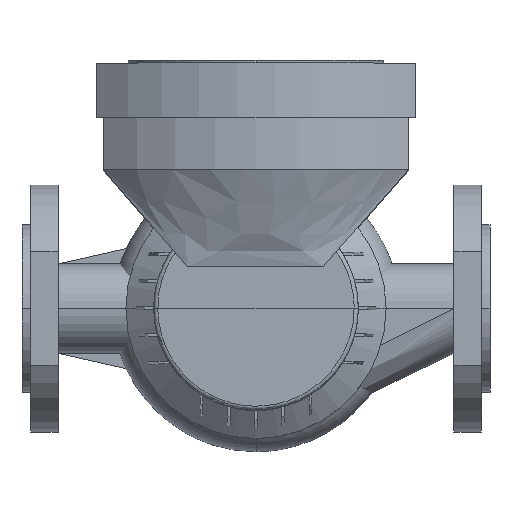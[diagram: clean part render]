
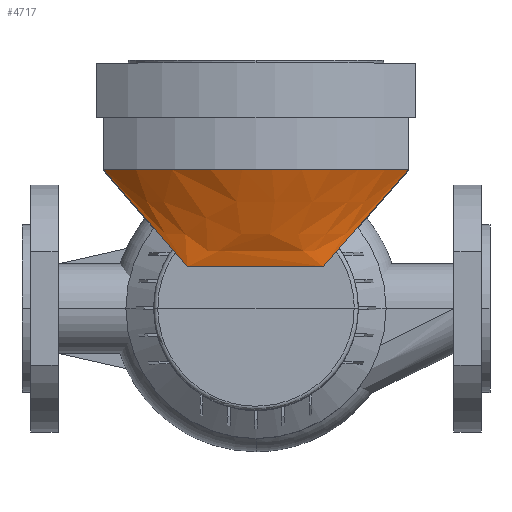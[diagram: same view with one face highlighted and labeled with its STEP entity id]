
A CAD part, top view. The second image highlights one B-rep face of the part: STEP entity #4717.
In plain terms, the highlighted free-form (B-spline) face has degree [3, 3] with [9, 4] control points.
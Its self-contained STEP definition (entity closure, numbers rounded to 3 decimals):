
#55=B_SPLINE_SURFACE_WITH_KNOTS('',3,3,((#8467,#8468,#8469,#8470),(#8471,
#8472,#8473,#8474),(#8475,#8476,#8477,#8478),(#8479,#8480,#8481,#8482),
(#8483,#8484,#8485,#8486),(#8487,#8488,#8489,#8490),(#8491,#8492,#8493,
#8494),(#8495,#8496,#8497,#8498),(#8499,#8500,#8501,#8502)),
 .UNSPECIFIED.,.F.,.F.,.F.,(4,1,1,1,1,1,4),(4,4),(0.,0.143,
0.286,0.429,0.571,0.857,
1.),(0.,1.),.UNSPECIFIED.);
#366=FACE_OUTER_BOUND('',#637,.T.);
#637=EDGE_LOOP('',(#3943,#3944,#3945,#3946));
#1072=LINE('',#8435,#1574);
#1088=LINE('',#8466,#1590);
#1089=LINE('',#8522,#1591);
#1574=VECTOR('',#5931,304.8);
#1590=VECTOR('',#5959,304.8);
#1591=VECTOR('',#5960,304.8);
#1804=B_SPLINE_CURVE_WITH_KNOTS('',3,(#8503,#8504,#8505,#8506,#8507,#8508,
#8509,#8510,#8511,#8512,#8513,#8514,#8515,#8516,#8517,#8518,#8519,#8520,
#8521),.UNSPECIFIED.,.F.,.F.,(4,3,3,3,3,3,4),(-241.51,-207.008,
-138.006,-103.504,-69.003,-34.501,
0.),.UNSPECIFIED.);
#2136=VERTEX_POINT('',#8431);
#2138=VERTEX_POINT('',#8434);
#2146=VERTEX_POINT('',#8462);
#2147=VERTEX_POINT('',#8464);
#2749=EDGE_CURVE('',#2138,#2136,#1072,.T.);
#2765=EDGE_CURVE('',#2146,#2147,#1088,.T.);
#2766=EDGE_CURVE('',#2146,#2136,#1804,.T.);
#2767=EDGE_CURVE('',#2138,#2147,#1089,.T.);
#3943=ORIENTED_EDGE('',*,*,#2766,.F.);
#3944=ORIENTED_EDGE('',*,*,#2765,.T.);
#3945=ORIENTED_EDGE('',*,*,#2767,.F.);
#3946=ORIENTED_EDGE('',*,*,#2749,.T.);
#4717=ADVANCED_FACE('',(#366),#55,.T.);
#5931=DIRECTION('',(0.654,0.743,-0.14));
#5959=DIRECTION('',(0.647,-0.749,0.141));
#5960=DIRECTION('',(-1.,0.,0.));
#8431=CARTESIAN_POINT('',(26479.526,-46380.739,233.347));
#8434=CARTESIAN_POINT('',(26417.429,-46451.239,246.637));
#8435=CARTESIAN_POINT('',(26417.429,-46451.239,246.637));
#8462=CARTESIAN_POINT('',(26257.707,-46380.739,233.347));
#8464=CARTESIAN_POINT('',(26318.625,-46451.239,246.637));
#8466=CARTESIAN_POINT('',(26257.707,-46380.739,233.347));
#8467=CARTESIAN_POINT('Ctrl Pts',(26479.526,-46380.739,233.347));
#8468=CARTESIAN_POINT('Ctrl Pts',(26458.827,-46404.239,237.777));
#8469=CARTESIAN_POINT('Ctrl Pts',(26438.128,-46427.739,242.207));
#8470=CARTESIAN_POINT('Ctrl Pts',(26417.429,-46451.239,246.637));
#8471=CARTESIAN_POINT('Ctrl Pts',(26470.736,-46380.739,240.718));
#8472=CARTESIAN_POINT('Ctrl Pts',(26451.399,-46404.239,242.69));
#8473=CARTESIAN_POINT('Ctrl Pts',(26432.061,-46427.739,244.665));
#8474=CARTESIAN_POINT('Ctrl Pts',(26412.724,-46451.239,246.637));
#8475=CARTESIAN_POINT('Ctrl Pts',(26451.682,-46380.739,253.701));
#8476=CARTESIAN_POINT('Ctrl Pts',(26435.559,-46404.239,251.348));
#8477=CARTESIAN_POINT('Ctrl Pts',(26419.437,-46427.739,248.99));
#8478=CARTESIAN_POINT('Ctrl Pts',(26403.314,-46451.239,246.637));
#8479=CARTESIAN_POINT('Ctrl Pts',(26419.809,-46380.739,267.137));
#8480=CARTESIAN_POINT('Ctrl Pts',(26409.606,-46404.239,260.303));
#8481=CARTESIAN_POINT('Ctrl Pts',(26399.402,-46427.739,253.471));
#8482=CARTESIAN_POINT('Ctrl Pts',(26389.199,-46451.239,246.637));
#8483=CARTESIAN_POINT('Ctrl Pts',(26385.911,-46380.739,273.976));
#8484=CARTESIAN_POINT('Ctrl Pts',(26382.302,-46404.239,264.864));
#8485=CARTESIAN_POINT('Ctrl Pts',(26378.694,-46427.739,255.749));
#8486=CARTESIAN_POINT('Ctrl Pts',(26375.085,-46451.239,246.637));
#8487=CARTESIAN_POINT('Ctrl Pts',(26339.789,-46380.739,274.002));
#8488=CARTESIAN_POINT('Ctrl Pts',(26345.281,-46404.239,264.881));
#8489=CARTESIAN_POINT('Ctrl Pts',(26350.773,-46427.739,255.759));
#8490=CARTESIAN_POINT('Ctrl Pts',(26356.265,-46451.239,246.637));
#8491=CARTESIAN_POINT('Ctrl Pts',(26295.069,-46380.739,260.222));
#8492=CARTESIAN_POINT('Ctrl Pts',(26309.195,-46404.239,255.691));
#8493=CARTESIAN_POINT('Ctrl Pts',(26323.319,-46427.739,251.167));
#8494=CARTESIAN_POINT('Ctrl Pts',(26337.445,-46451.239,246.637));
#8495=CARTESIAN_POINT('Ctrl Pts',(26266.497,-46380.739,240.718));
#8496=CARTESIAN_POINT('Ctrl Pts',(26285.44,-46404.239,242.695));
#8497=CARTESIAN_POINT('Ctrl Pts',(26304.387,-46427.739,244.66));
#8498=CARTESIAN_POINT('Ctrl Pts',(26323.33,-46451.239,246.637));
#8499=CARTESIAN_POINT('Ctrl Pts',(26257.707,-46380.739,233.347));
#8500=CARTESIAN_POINT('Ctrl Pts',(26278.013,-46404.239,237.777));
#8501=CARTESIAN_POINT('Ctrl Pts',(26298.319,-46427.739,242.207));
#8502=CARTESIAN_POINT('Ctrl Pts',(26318.625,-46451.239,246.637));
#8503=CARTESIAN_POINT('Ctrl Pts',(26257.707,-46380.739,233.347));
#8504=CARTESIAN_POINT('Ctrl Pts',(26266.497,-46380.739,240.718));
#8505=CARTESIAN_POINT('Ctrl Pts',(26276.021,-46380.739,247.219));
#8506=CARTESIAN_POINT('Ctrl Pts',(26286.097,-46380.739,252.702));
#8507=CARTESIAN_POINT('Ctrl Pts',(26306.249,-46380.739,263.667));
#8508=CARTESIAN_POINT('Ctrl Pts',(26328.609,-46380.739,270.557));
#8509=CARTESIAN_POINT('Ctrl Pts',(26351.436,-46380.739,272.845));
#8510=CARTESIAN_POINT('Ctrl Pts',(26362.85,-46380.739,273.989));
#8511=CARTESIAN_POINT('Ctrl Pts',(26374.38,-46380.739,273.983));
#8512=CARTESIAN_POINT('Ctrl Pts',(26385.795,-46380.739,272.84));
#8513=CARTESIAN_POINT('Ctrl Pts',(26397.21,-46380.739,271.696));
#8514=CARTESIAN_POINT('Ctrl Pts',(26408.51,-46380.739,269.417));
#8515=CARTESIAN_POINT('Ctrl Pts',(26419.471,-46380.739,266.037));
#8516=CARTESIAN_POINT('Ctrl Pts',(26430.433,-46380.739,262.658));
#8517=CARTESIAN_POINT('Ctrl Pts',(26441.058,-46380.739,258.18));
#8518=CARTESIAN_POINT('Ctrl Pts',(26451.133,-46380.739,252.694));
#8519=CARTESIAN_POINT('Ctrl Pts',(26461.209,-46380.739,247.209));
#8520=CARTESIAN_POINT('Ctrl Pts',(26470.736,-46380.739,240.718));
#8521=CARTESIAN_POINT('Ctrl Pts',(26479.526,-46380.739,233.347));
#8522=CARTESIAN_POINT('',(26417.429,-46451.239,246.637));
